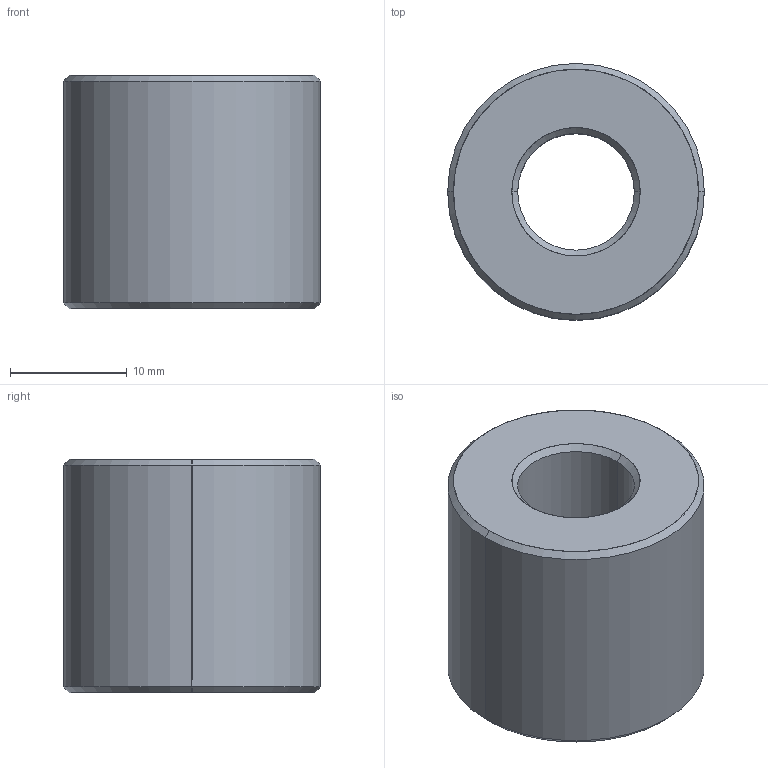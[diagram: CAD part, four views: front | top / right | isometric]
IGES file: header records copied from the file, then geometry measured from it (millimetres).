
Start section: SolidWorks IGES file using analytic representation for surfaces
Global section: file name: C:\Users\ianosborn\Desktop\L1339_v2\L1339_v2_20241024_IGES\Default.igs; native system: SolidWorks 2019; preprocessor: SolidWorks 2019; author: IanOsborn; date: 241024.150433; units: millimetre
Bounding box: 22 x 22 x 20 mm (x, y, z)
Surface area: 2554.9 mm2 (no closed solid volume)
Topology: 0 solids, 0 shells, 14 faces, 176 edges, 176 vertices
Faces by surface type: revolution 12, bspline 2
